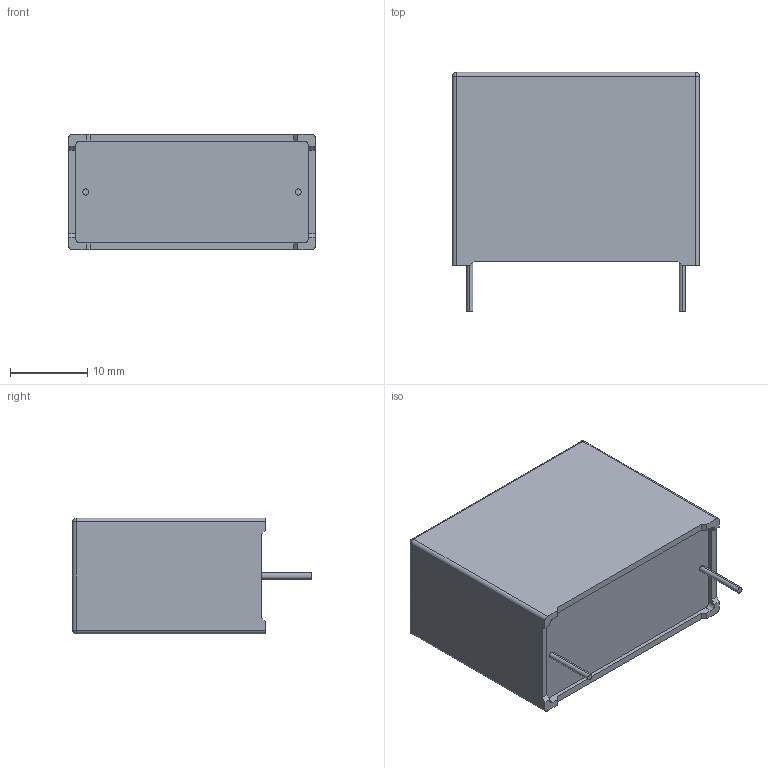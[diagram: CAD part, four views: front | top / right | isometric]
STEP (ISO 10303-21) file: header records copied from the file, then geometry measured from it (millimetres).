
FILE_DESCRIPTION (( 'STEP AP203' ), '1' );
FILE_NAME ('DC_Link_15x25x32_2pins.step', '2017-04-03T15:59:44', ( 'work' ), ( 'Hewlett-Packard Company' ), 'SwSTEP 2.0', 'SolidWorks 2017', '' );
FILE_SCHEMA (( 'CONFIG_CONTROL_DESIGN' ));
Length unit declared in the file: millimetre
Products named in the file (1): DC_Link_15x25x32_2pins
Bounding box: 32 x 31 x 15 mm (x, y, z)
Volume: 11564 mm3; surface area: 3314.2 mm2
Topology: 1 solids, 1 shells, 116 faces, 307 edges, 198 vertices
Faces by surface type: plane 80, cylinder 16, bspline 16, sphere 4
Entity records: 4292 total; most frequent: CARTESIAN_POINT 1442, ORIENTED_EDGE 606, DIRECTION 505, EDGE_CURVE 303, VECTOR 239, LINE 239, VERTEX_POINT 198, AXIS2_PLACEMENT_3D 133
